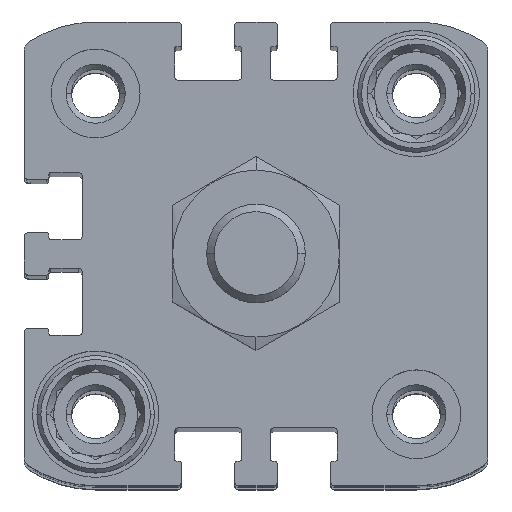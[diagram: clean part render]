
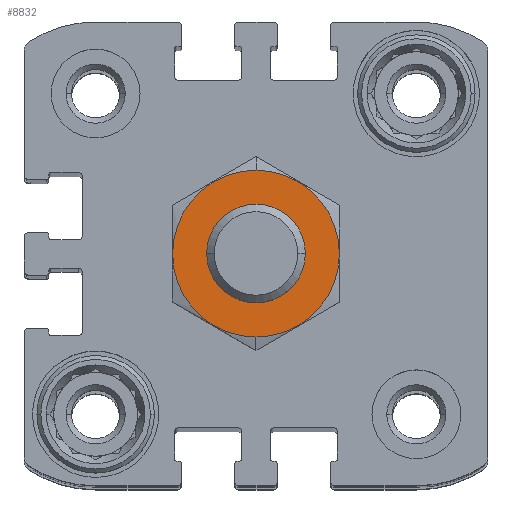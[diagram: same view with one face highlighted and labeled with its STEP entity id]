
A CAD part, top view. The second image highlights one B-rep face of the part: STEP entity #8832.
In plain terms, the highlighted planar face has unit normal (0, 0, 1) as drawn and (0, 1, 0) by its records, which use the part's own axes.
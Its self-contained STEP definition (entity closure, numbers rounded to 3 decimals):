
#432 = FACE_BOUND ( 'NONE', #2138, .T. ) ;
#768 = ORIENTED_EDGE ( 'NONE', *, *, #2056, .F. ) ;
#1661 = AXIS2_PLACEMENT_3D ( 'NONE', #10272, #2573, #11519 ) ;
#1746 = EDGE_CURVE ( 'NONE', #14127, #15582, #2320, .T. ) ;
#1947 = AXIS2_PLACEMENT_3D ( 'NONE', #9512, #4436, #13289 ) ;
#2056 = EDGE_CURVE ( 'NONE', #4165, #15827, #11523, .T. ) ;
#2059 = ORIENTED_EDGE ( 'NONE', *, *, #3408, .F. ) ;
#2138 = EDGE_LOOP ( 'NONE', ( #768, #2059 ) ) ;
#2320 = CIRCLE ( 'NONE', #7332, 8.45 ) ;
#2573 = DIRECTION ( 'NONE',  ( 0., -1., 0. ) ) ;
#2983 = ORIENTED_EDGE ( 'NONE', *, *, #1746, .F. ) ;
#3139 = PLANE ( 'NONE',  #1947 ) ;
#3408 = EDGE_CURVE ( 'NONE', #15827, #4165, #5816, .T. ) ;
#4132 = CARTESIAN_POINT ( 'NONE',  ( 0., 0., 5. ) ) ;
#4165 = VERTEX_POINT ( 'NONE', #4132 ) ;
#4436 = DIRECTION ( 'NONE',  ( 0., -1., 0. ) ) ;
#4700 = AXIS2_PLACEMENT_3D ( 'NONE', #14098, #14077, #14072 ) ;
#4854 = CARTESIAN_POINT ( 'NONE',  ( 0., 0., 0. ) ) ;
#4872 = DIRECTION ( 'NONE',  ( 0., -1., 0. ) ) ;
#4893 = DIRECTION ( 'NONE',  ( 0., 0., -1. ) ) ;
#5595 = EDGE_LOOP ( 'NONE', ( #6453, #2983 ) ) ;
#5757 = CARTESIAN_POINT ( 'NONE',  ( 0., 0., -8.45 ) ) ;
#5816 = CIRCLE ( 'NONE', #4700, 5. ) ;
#6453 = ORIENTED_EDGE ( 'NONE', *, *, #10623, .F. ) ;
#6520 = CARTESIAN_POINT ( 'NONE',  ( 0., 0., 8.45 ) ) ;
#7332 = AXIS2_PLACEMENT_3D ( 'NONE', #4854, #4872, #4893 ) ;
#7893 = AXIS2_PLACEMENT_3D ( 'NONE', #14199, #14168, #14131 ) ;
#8832 = ADVANCED_FACE ( 'NONE', ( #432, #13927 ), #3139, .F. ) ;
#9512 = CARTESIAN_POINT ( 'NONE',  ( 0., 0., 0. ) ) ;
#10109 = CARTESIAN_POINT ( 'NONE',  ( 0., 0., -5. ) ) ;
#10272 = CARTESIAN_POINT ( 'NONE',  ( 0., 0., 0. ) ) ;
#10623 = EDGE_CURVE ( 'NONE', #15582, #14127, #15599, .T. ) ;
#11519 = DIRECTION ( 'NONE',  ( 0., 0., -1. ) ) ;
#11523 = CIRCLE ( 'NONE', #7893, 5. ) ;
#13289 = DIRECTION ( 'NONE',  ( 0., 0., -1. ) ) ;
#13927 = FACE_OUTER_BOUND ( 'NONE', #5595, .T. ) ;
#14072 = DIRECTION ( 'NONE',  ( 0., 0., 1. ) ) ;
#14077 = DIRECTION ( 'NONE',  ( 0., 1., 0. ) ) ;
#14098 = CARTESIAN_POINT ( 'NONE',  ( 0., 0., 0. ) ) ;
#14127 = VERTEX_POINT ( 'NONE', #6520 ) ;
#14131 = DIRECTION ( 'NONE',  ( 0., 0., 1. ) ) ;
#14168 = DIRECTION ( 'NONE',  ( 0., 1., 0. ) ) ;
#14199 = CARTESIAN_POINT ( 'NONE',  ( 0., 0., 0. ) ) ;
#15582 = VERTEX_POINT ( 'NONE', #5757 ) ;
#15599 = CIRCLE ( 'NONE', #1661, 8.45 ) ;
#15827 = VERTEX_POINT ( 'NONE', #10109 ) ;
